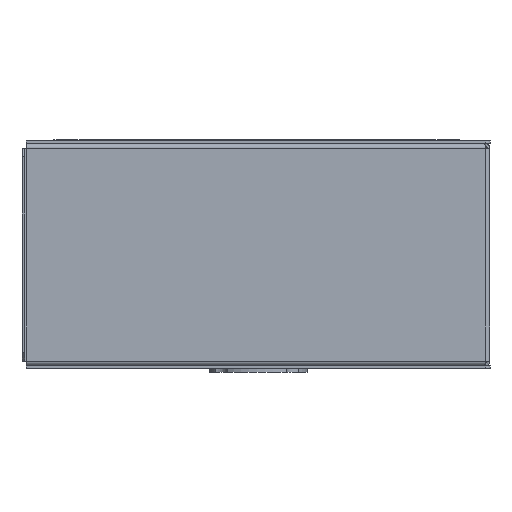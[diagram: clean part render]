
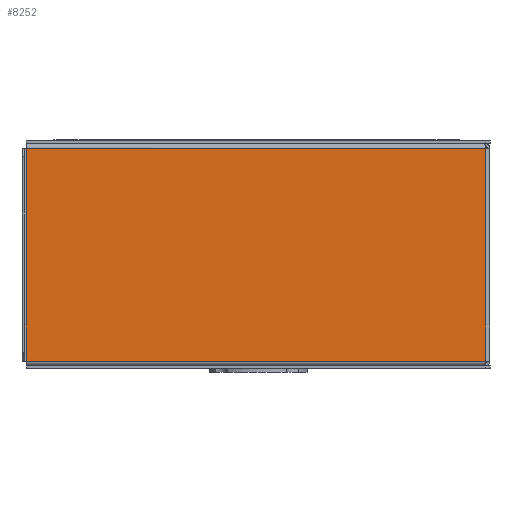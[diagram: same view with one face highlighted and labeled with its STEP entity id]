
A CAD part, left-side view. The second image highlights one B-rep face of the part: STEP entity #8252.
In plain terms, the highlighted planar face has unit normal (-1, 0, 0).
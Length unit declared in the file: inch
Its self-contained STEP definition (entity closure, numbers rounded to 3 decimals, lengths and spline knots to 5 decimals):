
#278 = DIRECTION ( 'NONE',  ( 0., 0., -1. ) ) ;
#648 = DIRECTION ( 'NONE',  ( 0., -1., 0. ) ) ;
#739 = CARTESIAN_POINT ( 'NONE',  ( -9.08, -3.119, 3.098 ) ) ;
#820 = CARTESIAN_POINT ( 'NONE',  ( -9.08, -16.604, 3.098 ) ) ;
#1081 = DIRECTION ( 'NONE',  ( 0., -1., 0. ) ) ;
#1237 = CARTESIAN_POINT ( 'NONE',  ( -9.08, -3.119, -3.098 ) ) ;
#1788 = VERTEX_POINT ( 'NONE', #14563 ) ;
#2147 = VERTEX_POINT ( 'NONE', #14065 ) ;
#2282 = VERTEX_POINT ( 'NONE', #6652 ) ;
#2312 = VERTEX_POINT ( 'NONE', #6549 ) ;
#3176 = ORIENTED_EDGE ( 'NONE', *, *, #7959, .T. ) ;
#3293 = ORIENTED_EDGE ( 'NONE', *, *, #7439, .T. ) ;
#3576 = LINE ( 'NONE', #6451, #3579 ) ;
#3579 = VECTOR ( 'NONE', #6450, 39.37008 ) ;
#4045 = ORIENTED_EDGE ( 'NONE', *, *, #7946, .F. ) ;
#4145 = ORIENTED_EDGE ( 'NONE', *, *, #7823, .F. ) ;
#4346 = LINE ( 'NONE', #739, #4353 ) ;
#4353 = VECTOR ( 'NONE', #1081, 39.37008 ) ;
#5461 = EDGE_LOOP ( 'NONE', ( #3176, #4045, #4145, #3293 ) ) ;
#6450 = DIRECTION ( 'NONE',  ( 0., 0., -1. ) ) ;
#6451 = CARTESIAN_POINT ( 'NONE',  ( -9.08, -3.249, 3.098 ) ) ;
#6549 = CARTESIAN_POINT ( 'NONE',  ( -9.08, -3.249, -3.098 ) ) ;
#6652 = CARTESIAN_POINT ( 'NONE',  ( -9.08, -16.604, -3.098 ) ) ;
#7439 = EDGE_CURVE ( 'NONE', #1788, #2312, #3576, .T. ) ;
#7823 = EDGE_CURVE ( 'NONE', #1788, #2147, #4346, .T. ) ;
#7946 = EDGE_CURVE ( 'NONE', #2147, #2282, #10849, .T. ) ;
#7959 = EDGE_CURVE ( 'NONE', #2312, #2282, #11051, .T. ) ;
#8252 = ADVANCED_FACE ( 'NONE', ( #13992 ), #12232, .F. ) ;
#10145 = AXIS2_PLACEMENT_3D ( 'NONE', #13355, #12238, #12261 ) ;
#10849 = LINE ( 'NONE', #820, #10877 ) ;
#10877 = VECTOR ( 'NONE', #278, 39.37008 ) ;
#10988 = VECTOR ( 'NONE', #648, 39.37008 ) ;
#11051 = LINE ( 'NONE', #1237, #10988 ) ;
#12232 = PLANE ( 'NONE',  #10145 ) ;
#12238 = DIRECTION ( 'NONE',  ( 1., 0., 0. ) ) ;
#12261 = DIRECTION ( 'NONE',  ( 0., 0., -1. ) ) ;
#13355 = CARTESIAN_POINT ( 'NONE',  ( -9.08, -3.119, 3.098 ) ) ;
#13992 = FACE_OUTER_BOUND ( 'NONE', #5461, .T. ) ;
#14065 = CARTESIAN_POINT ( 'NONE',  ( -9.08, -16.604, 3.098 ) ) ;
#14563 = CARTESIAN_POINT ( 'NONE',  ( -9.08, -3.249, 3.098 ) ) ;
